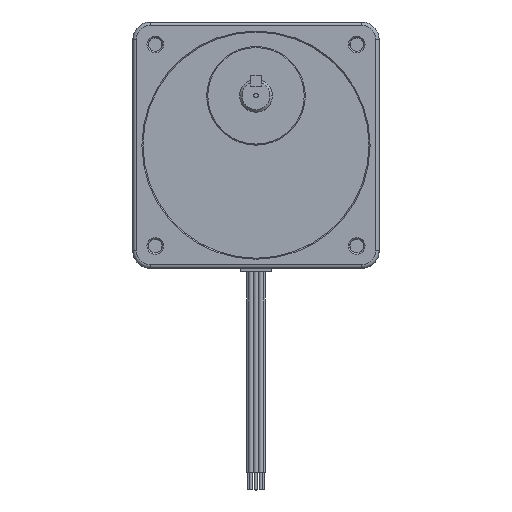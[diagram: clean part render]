
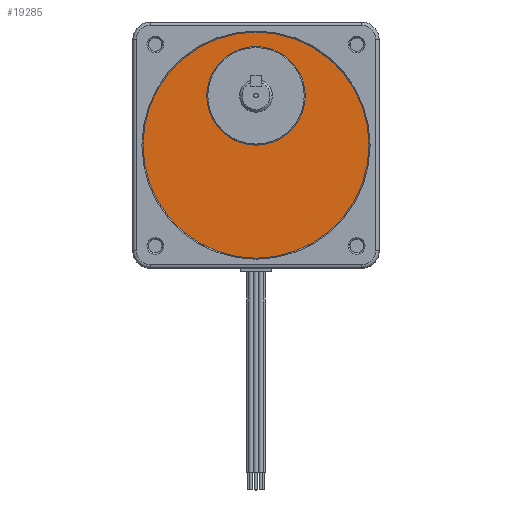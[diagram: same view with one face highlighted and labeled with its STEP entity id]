
A CAD part, top view. The second image highlights one B-rep face of the part: STEP entity #19285.
In plain terms, the highlighted planar face has unit normal (0, 0, 1).
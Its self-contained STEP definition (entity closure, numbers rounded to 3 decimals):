
#10104 = CARTESIAN_POINT ( 'NONE',  ( -17.996, 18.009, 59. ) ) ;
#10143 = CARTESIAN_POINT ( 'NONE',  ( 17.996, 18.009, 59. ) ) ;
#10676 = CARTESIAN_POINT ( 'NONE',  ( -41.275, 0., 59. ) ) ;
#10737 = CARTESIAN_POINT ( 'NONE',  ( 41.275, 0., 59. ) ) ;
#10748 = AXIS2_PLACEMENT_3D ( 'NONE', #10767, #10800, #10798 ) ;
#10756 = CIRCLE ( 'NONE', #10748, 41.275 ) ;
#10767 = CARTESIAN_POINT ( 'NONE',  ( 0., 0., 59. ) ) ;
#10798 = DIRECTION ( 'NONE',  ( 1., 0., 0. ) ) ;
#10800 = DIRECTION ( 'NONE',  ( 0., 0., 1. ) ) ;
#11136 = DIRECTION ( 'NONE',  ( 1., 0., 0. ) ) ;
#11137 = DIRECTION ( 'NONE',  ( 0., 0., 1. ) ) ;
#11138 = CARTESIAN_POINT ( 'NONE',  ( 0., 0., 59. ) ) ;
#11142 = AXIS2_PLACEMENT_3D ( 'NONE', #11138, #11137, #11136 ) ;
#11144 = CIRCLE ( 'NONE', #11142, 41.275 ) ;
#11164 = FACE_OUTER_BOUND ( 'NONE', #19294, .T. ) ;
#11171 = PLANE ( 'NONE',  #11178 ) ;
#11172 = FACE_BOUND ( 'NONE', #19295, .T. ) ;
#11178 = AXIS2_PLACEMENT_3D ( 'NONE', #11211, #11210, #11209 ) ;
#11209 = DIRECTION ( 'NONE',  ( 1., 0., 0. ) ) ;
#11210 = DIRECTION ( 'NONE',  ( 0., 0., 1. ) ) ;
#11211 = CARTESIAN_POINT ( 'NONE',  ( 0., 0., 59. ) ) ;
#11340 = DIRECTION ( 'NONE',  ( 1., 0., 0. ) ) ;
#11341 = DIRECTION ( 'NONE',  ( 0., 0., 1. ) ) ;
#11342 = CARTESIAN_POINT ( 'NONE',  ( 0., 18.009, 59. ) ) ;
#11343 = AXIS2_PLACEMENT_3D ( 'NONE', #11342, #11341, #11340 ) ;
#11350 = CIRCLE ( 'NONE', #11343, 17.996 ) ;
#11741 = CIRCLE ( 'NONE', #11790, 17.996 ) ;
#11787 = DIRECTION ( 'NONE',  ( 1., 0., 0. ) ) ;
#11788 = DIRECTION ( 'NONE',  ( 0., 0., 1. ) ) ;
#11789 = CARTESIAN_POINT ( 'NONE',  ( 0., 18.009, 59. ) ) ;
#11790 = AXIS2_PLACEMENT_3D ( 'NONE', #11789, #11788, #11787 ) ;
#18925 = VERTEX_POINT ( 'NONE', #10104 ) ;
#18926 = VERTEX_POINT ( 'NONE', #10143 ) ;
#19106 = VERTEX_POINT ( 'NONE', #10676 ) ;
#19128 = VERTEX_POINT ( 'NONE', #10737 ) ;
#19141 = EDGE_CURVE ( 'NONE', #19106, #19128, #10756, .T. ) ;
#19263 = EDGE_CURVE ( 'NONE', #19128, #19106, #11144, .T. ) ;
#19270 = ORIENTED_EDGE ( 'NONE', *, *, #19444, .F. ) ;
#19277 = ORIENTED_EDGE ( 'NONE', *, *, #19332, .F. ) ;
#19285 = ADVANCED_FACE ( 'NONE', ( #11164, #11172 ), #11171, .T. ) ;
#19288 = ORIENTED_EDGE ( 'NONE', *, *, #19141, .T. ) ;
#19294 = EDGE_LOOP ( 'NONE', ( #20060, #19288 ) ) ;
#19295 = EDGE_LOOP ( 'NONE', ( #19277, #19270 ) ) ;
#19332 = EDGE_CURVE ( 'NONE', #18925, #18926, #11350, .T. ) ;
#19444 = EDGE_CURVE ( 'NONE', #18926, #18925, #11741, .T. ) ;
#20060 = ORIENTED_EDGE ( 'NONE', *, *, #19263, .T. ) ;
